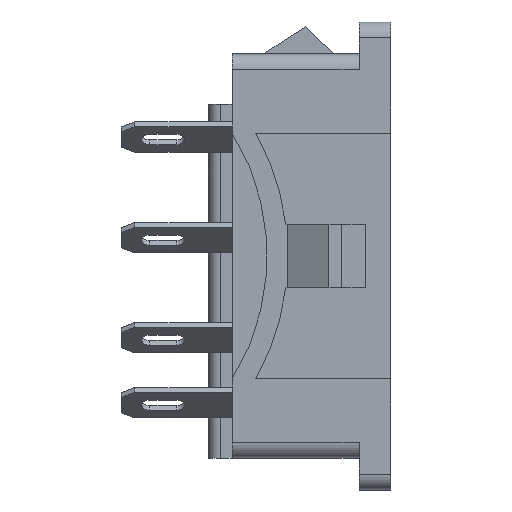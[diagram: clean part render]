
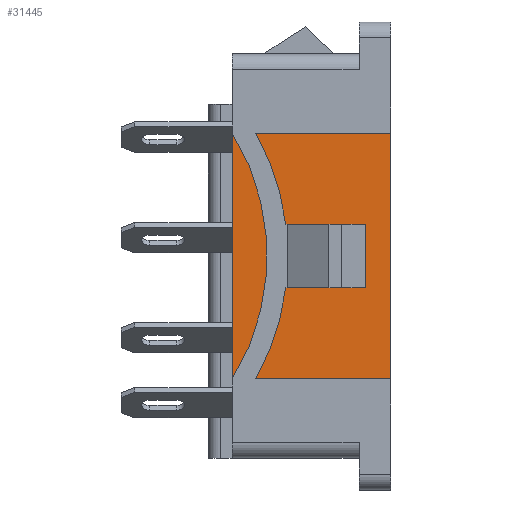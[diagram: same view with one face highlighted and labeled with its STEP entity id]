
A CAD part, left-side view. The second image highlights one B-rep face of the part: STEP entity #31445.
In plain terms, the highlighted planar face has unit normal (-1, 0, 0).
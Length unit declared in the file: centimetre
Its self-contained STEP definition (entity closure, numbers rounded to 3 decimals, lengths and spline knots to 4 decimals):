
#2695=FACE_OUTER_BOUND('',#4230,.T.);
#4230=EDGE_LOOP('',(#28076,#28077,#28078,#28079));
#4463=LINE('',#41838,#8426);
#7649=LINE('',#49114,#11612);
#8133=LINE('',#50167,#12096);
#8140=LINE('',#50181,#12103);
#8426=VECTOR('',#33744,1.55);
#11612=VECTOR('',#40134,1.55);
#12096=VECTOR('',#41102,1.);
#12103=VECTOR('',#41121,1.);
#12378=VERTEX_POINT('',#41835);
#12379=VERTEX_POINT('',#41837);
#14866=VERTEX_POINT('',#49111);
#14867=VERTEX_POINT('',#49113);
#15357=EDGE_CURVE('',#12378,#12379,#4463,.T.);
#19049=EDGE_CURVE('',#14866,#14867,#7649,.T.);
#19589=EDGE_CURVE('',#14867,#12378,#8133,.T.);
#19596=EDGE_CURVE('',#14866,#12379,#8140,.T.);
#28076=ORIENTED_EDGE('',*,*,#15357,.F.);
#28077=ORIENTED_EDGE('',*,*,#19589,.F.);
#28078=ORIENTED_EDGE('',*,*,#19049,.F.);
#28079=ORIENTED_EDGE('',*,*,#19596,.T.);
#30008=PLANE('',#33467);
#31445=ADVANCED_FACE('',(#2695),#30008,.F.);
#33467=AXIS2_PLACEMENT_3D('',#50189,#41133,#41134);
#33744=DIRECTION('',(0.,0.,1.));
#40134=DIRECTION('',(0.,0.,-1.));
#41102=DIRECTION('',(0.,1.,0.));
#41121=DIRECTION('',(0.,1.,0.));
#41133=DIRECTION('center_axis',(1.,0.,0.));
#41134=DIRECTION('ref_axis',(0.,0.,1.));
#41835=CARTESIAN_POINT('',(-1.1066,1.0634,-0.775));
#41837=CARTESIAN_POINT('',(-1.1066,1.0634,0.775));
#41838=CARTESIAN_POINT('',(-1.1066,1.0634,0.385));
#49111=CARTESIAN_POINT('',(-1.1066,0.0634,0.775));
#49113=CARTESIAN_POINT('',(-1.1066,0.0634,-0.775));
#49114=CARTESIAN_POINT('',(-1.1066,0.0634,0.3875));
#50167=CARTESIAN_POINT('',(-1.1066,0.0634,-0.775));
#50181=CARTESIAN_POINT('',(-1.1066,0.0634,0.775));
#50189=CARTESIAN_POINT('Origin',(-1.1066,1.2134,-0.1));
